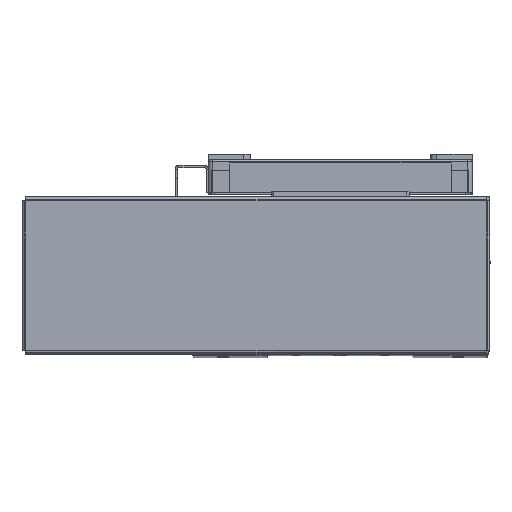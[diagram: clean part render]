
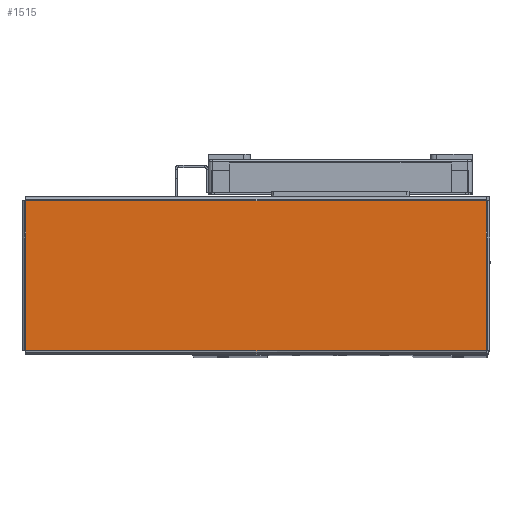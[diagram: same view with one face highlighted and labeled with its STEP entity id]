
A CAD part, top view. The second image highlights one B-rep face of the part: STEP entity #1515.
In plain terms, the highlighted planar face has unit normal (0, 0, 1) as drawn and (0, -1, 0) by its records, which use the part's own axes.
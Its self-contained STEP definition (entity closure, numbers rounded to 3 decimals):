
#1515 = ADVANCED_FACE ( 'NONE', ( #39016 ), #12357, .F. ) ;
#5108 = CARTESIAN_POINT ( 'NONE',  ( -103.763, -1., 33.763 ) ) ;
#5114 = CARTESIAN_POINT ( 'NONE',  ( 103.763, -1., 33.763 ) ) ;
#5116 = CARTESIAN_POINT ( 'NONE',  ( 103.763, -1., -33.763 ) ) ;
#5147 = CARTESIAN_POINT ( 'NONE',  ( -103.763, -1., -33.763 ) ) ;
#12345 = DIRECTION ( 'NONE',  ( 0., 1., 0. ) ) ;
#12357 = PLANE ( 'NONE',  #39688 ) ;
#12359 = CARTESIAN_POINT ( 'NONE',  ( 0., -1., 0. ) ) ;
#17161 = ORIENTED_EDGE ( 'NONE', *, *, #59799, .T. ) ;
#17351 = ORIENTED_EDGE ( 'NONE', *, *, #59802, .T. ) ;
#17371 = ORIENTED_EDGE ( 'NONE', *, *, #59839, .T. ) ;
#17431 = ORIENTED_EDGE ( 'NONE', *, *, #59833, .T. ) ;
#23464 = VERTEX_POINT ( 'NONE', #5147 ) ;
#23465 = VERTEX_POINT ( 'NONE', #5108 ) ;
#23468 = VERTEX_POINT ( 'NONE', #5116 ) ;
#23477 = VERTEX_POINT ( 'NONE', #5114 ) ;
#39016 = FACE_OUTER_BOUND ( 'NONE', #49537, .T. ) ;
#39688 = AXIS2_PLACEMENT_3D ( 'NONE', #12359, #12345, #62432 ) ;
#46557 = DIRECTION ( 'NONE',  ( 1., 0., 0. ) ) ;
#46571 = DIRECTION ( 'NONE',  ( -1., 0., 0. ) ) ;
#46577 = CARTESIAN_POINT ( 'NONE',  ( -103.793, -1., -33.763 ) ) ;
#46585 = CARTESIAN_POINT ( 'NONE',  ( 103.793, -1., 33.763 ) ) ;
#46634 = CARTESIAN_POINT ( 'NONE',  ( -103.763, -1., 33.793 ) ) ;
#46652 = CARTESIAN_POINT ( 'NONE',  ( 103.763, -1., -33.793 ) ) ;
#46666 = DIRECTION ( 'NONE',  ( 0., 0., -1. ) ) ;
#46686 = DIRECTION ( 'NONE',  ( 0., 0., 1. ) ) ;
#47409 = LINE ( 'NONE', #46585, #47414 ) ;
#47414 = VECTOR ( 'NONE', #46571, 1000. ) ;
#47419 = VECTOR ( 'NONE', #46557, 1000. ) ;
#47426 = LINE ( 'NONE', #46577, #47419 ) ;
#47442 = LINE ( 'NONE', #46652, #47480 ) ;
#47444 = VECTOR ( 'NONE', #46666, 1000. ) ;
#47479 = LINE ( 'NONE', #46634, #47444 ) ;
#47480 = VECTOR ( 'NONE', #46686, 1000. ) ;
#49537 = EDGE_LOOP ( 'NONE', ( #17161, #17431, #17351, #17371 ) ) ;
#59799 = EDGE_CURVE ( 'NONE', #23477, #23465, #47409, .T. ) ;
#59802 = EDGE_CURVE ( 'NONE', #23464, #23468, #47426, .T. ) ;
#59833 = EDGE_CURVE ( 'NONE', #23465, #23464, #47479, .T. ) ;
#59839 = EDGE_CURVE ( 'NONE', #23468, #23477, #47442, .T. ) ;
#62432 = DIRECTION ( 'NONE',  ( 0., 0., 1. ) ) ;
